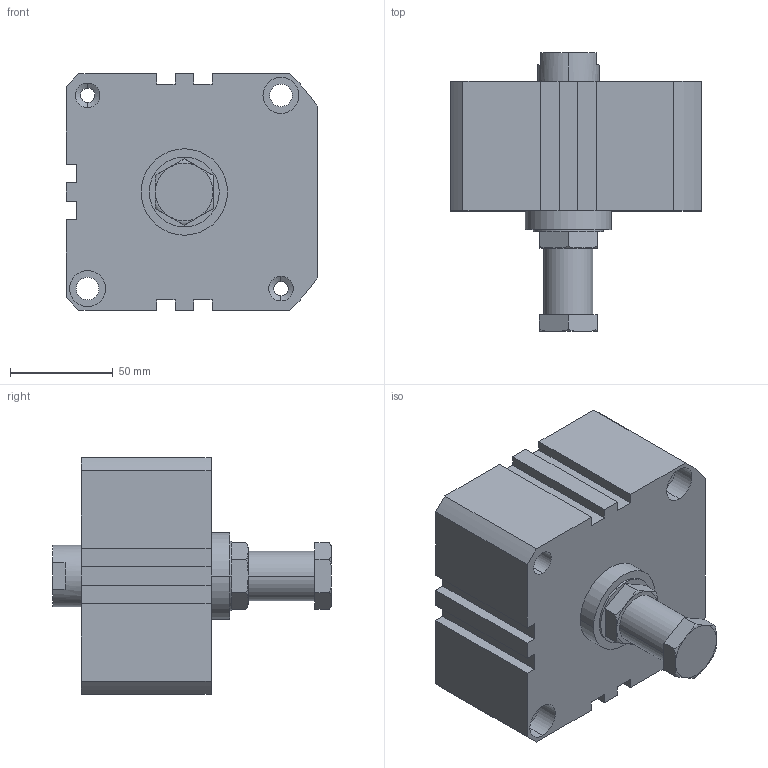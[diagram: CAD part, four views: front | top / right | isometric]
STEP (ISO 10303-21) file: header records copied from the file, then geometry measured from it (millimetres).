
FILE_DESCRIPTION (( 'STEP AP203' ), '1' );
FILE_NAME ('XCA2-100-10.STEP', '2016-05-24T02:32:22', ( '' ), ( '' ), 'SwSTEP 2.0', 'SolidWorks 2014', '' );
FILE_SCHEMA (( 'CONFIG_CONTROL_DESIGN' ));
Length unit declared in the file: millimetre
Products named in the file (3): X#A2-100-H; XC#2-100-10; XCA2-100-10
Assembly tree (2 placements, depth 2):
  XCA2-100-10
    XC#2-100-10
    X#A2-100-H
Bounding box: 122.5 x 135.5 x 115 mm (x, y, z)
Volume: 850454.3 mm3; surface area: 83004.3 mm2
Topology: 2 solids, 2 shells, 147 faces, 353 edges, 222 vertices
Faces by surface type: plane 64, cylinder 53, cone 18, torus 12
Entity records: 4793 total; most frequent: CARTESIAN_POINT 1009, DIRECTION 762, ORIENTED_EDGE 694, EDGE_CURVE 347, AXIS2_PLACEMENT_3D 287, VERTEX_POINT 222, VECTOR 188, LINE 188
